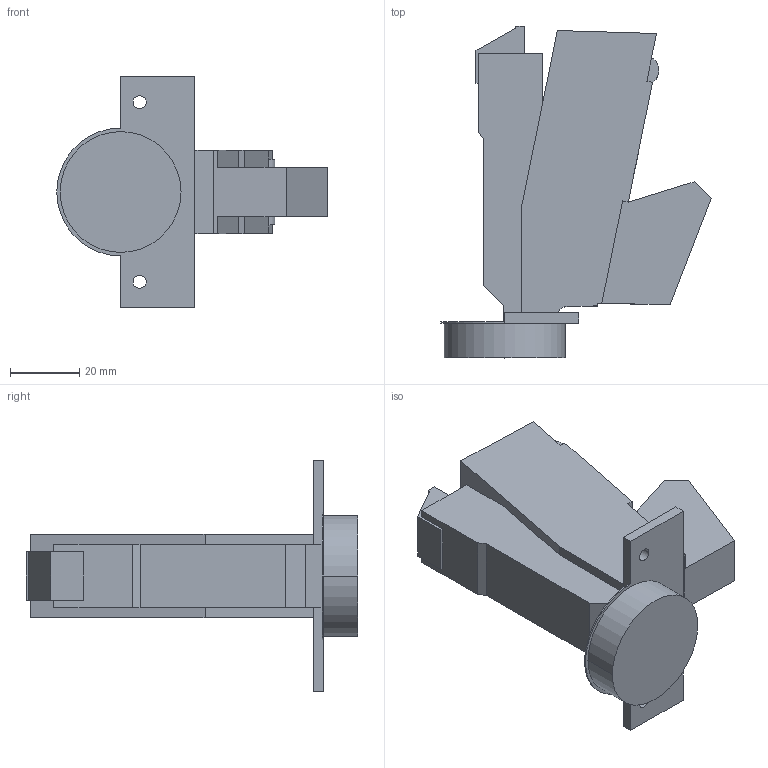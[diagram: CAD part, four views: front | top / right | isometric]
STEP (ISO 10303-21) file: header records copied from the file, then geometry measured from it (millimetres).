
FILE_DESCRIPTION (( 'STEP AP214' ), '1' );
FILE_NAME ('Scharnier T Click-on 160° H_BB, K95 - Neu -.step', '2019-09-17T09:22:20', ( '' ), ( '' ), 'SwSTEP 2.0', 'SolidWorks 2019', '' );
FILE_SCHEMA (( 'AUTOMOTIVE_DESIGN' ));
Length unit declared in the file: millimetre
Products named in the file (1): Scharnier T Click-on 160° H_BB, K95 - Neu -
Bounding box: 78.32 x 96.09 x 67 mm (x, y, z)
Volume: 99723.8 mm3; surface area: 20351.9 mm2
Topology: 1 solids, 2 shells, 63 faces, 170 edges, 112 vertices
Faces by surface type: plane 53, cylinder 10
Entity records: 1991 total; most frequent: CARTESIAN_POINT 349, ORIENTED_EDGE 340, DIRECTION 316, EDGE_CURVE 170, LINE 150, VECTOR 150, VERTEX_POINT 112, AXIS2_PLACEMENT_3D 83
